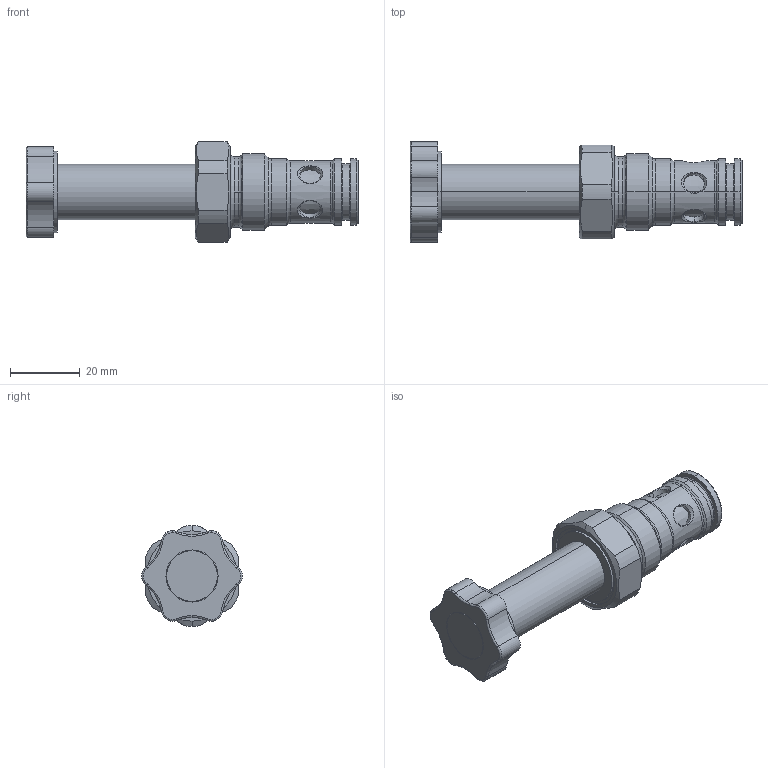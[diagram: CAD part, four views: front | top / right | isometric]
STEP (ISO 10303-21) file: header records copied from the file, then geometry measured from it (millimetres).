
FILE_DESCRIPTION (( 'STEP AP214' ), '1' );
FILE_NAME ('SVSPM22.STEP', '2016-02-05T06:55:50', ( '' ), ( '' ), 'SwSTEP 2.0', 'SolidWorks 2014', '' );
FILE_SCHEMA (( 'AUTOMOTIVE_DESIGN' ));
Length unit declared in the file: millimetre
Products named in the file (2): SVSPM22
Bounding box: 95.5 x 28.98 x 29 mm (x, y, z)
Volume: 28903.9 mm3; surface area: 8310.2 mm2
Topology: 1 solids, 1 shells, 143 faces, 328 edges, 200 vertices
Faces by surface type: cylinder 60, cone 36, torus 29, plane 18
Entity records: 6254 total; most frequent: CARTESIAN_POINT 1415, DIRECTION 771, ORIENTED_EDGE 656, AXIS2_PLACEMENT_3D 336, EDGE_CURVE 328, VERTEX_POINT 200, CIRCLE 191, EDGE_LOOP 156
